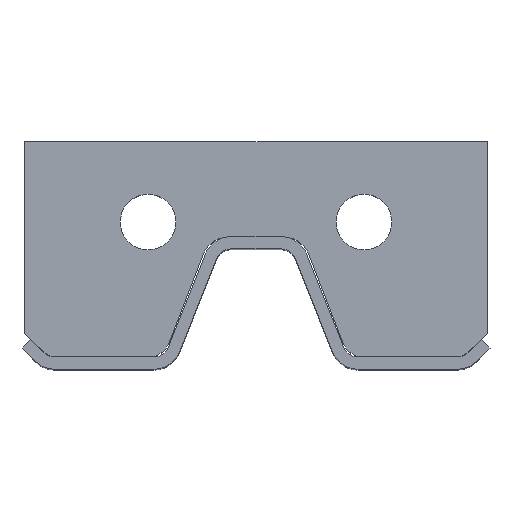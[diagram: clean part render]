
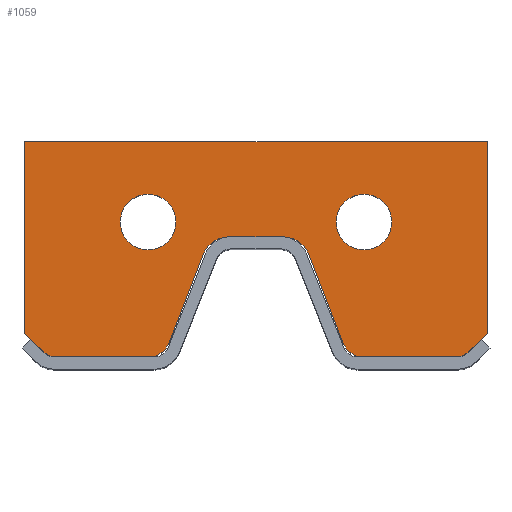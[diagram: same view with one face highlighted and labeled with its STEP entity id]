
A CAD part, top view. The second image highlights one B-rep face of the part: STEP entity #1059.
In plain terms, the highlighted planar face has unit normal (0, 0, 1).
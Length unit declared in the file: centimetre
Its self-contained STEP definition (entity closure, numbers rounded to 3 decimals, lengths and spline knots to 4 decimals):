
#28=FACE_BOUND('',#178,.T.);
#29=FACE_BOUND('',#179,.T.);
#59=PLANE('',#1164);
#113=FACE_OUTER_BOUND('',#177,.T.);
#177=EDGE_LOOP('',(#964,#965,#966,#967,#968,#969,#970,#971,#972,#973,#974,
#975,#976,#977,#978,#979));
#178=EDGE_LOOP('',(#980));
#179=EDGE_LOOP('',(#981));
#257=LINE('',#1717,#359);
#259=LINE('',#1721,#361);
#261=LINE('',#1725,#363);
#264=LINE('',#1733,#366);
#267=LINE('',#1741,#369);
#270=LINE('',#1749,#372);
#273=LINE('',#1757,#375);
#276=LINE('',#1765,#378);
#279=LINE('',#1773,#381);
#281=LINE('',#1776,#383);
#359=VECTOR('',#1404,0.1);
#361=VECTOR('',#1408,0.1);
#363=VECTOR('',#1412,0.1);
#366=VECTOR('',#1421,0.1);
#369=VECTOR('',#1430,0.1);
#372=VECTOR('',#1439,0.1);
#375=VECTOR('',#1448,0.1);
#378=VECTOR('',#1457,0.1);
#381=VECTOR('',#1466,0.1);
#383=VECTOR('',#1470,0.1);
#424=CIRCLE('',#1139,0.9);
#425=CIRCLE('',#1141,0.9);
#426=CIRCLE('',#1146,0.8);
#427=CIRCLE('',#1149,0.8);
#428=CIRCLE('',#1152,0.8);
#429=CIRCLE('',#1155,0.8);
#430=CIRCLE('',#1158,0.8);
#431=CIRCLE('',#1161,0.8);
#514=VERTEX_POINT('',#1706);
#515=VERTEX_POINT('',#1710);
#516=VERTEX_POINT('',#1714);
#517=VERTEX_POINT('',#1716);
#518=VERTEX_POINT('',#1720);
#519=VERTEX_POINT('',#1724);
#520=VERTEX_POINT('',#1728);
#521=VERTEX_POINT('',#1732);
#522=VERTEX_POINT('',#1736);
#523=VERTEX_POINT('',#1740);
#524=VERTEX_POINT('',#1744);
#525=VERTEX_POINT('',#1748);
#526=VERTEX_POINT('',#1752);
#527=VERTEX_POINT('',#1756);
#528=VERTEX_POINT('',#1760);
#529=VERTEX_POINT('',#1764);
#530=VERTEX_POINT('',#1768);
#531=VERTEX_POINT('',#1772);
#646=EDGE_CURVE('',#514,#514,#424,.T.);
#648=EDGE_CURVE('',#515,#515,#425,.T.);
#651=EDGE_CURVE('',#517,#516,#257,.T.);
#653=EDGE_CURVE('',#518,#517,#259,.T.);
#655=EDGE_CURVE('',#519,#518,#261,.T.);
#657=EDGE_CURVE('',#520,#519,#426,.T.);
#659=EDGE_CURVE('',#521,#520,#264,.T.);
#661=EDGE_CURVE('',#522,#521,#427,.T.);
#663=EDGE_CURVE('',#523,#522,#267,.T.);
#665=EDGE_CURVE('',#524,#523,#428,.T.);
#667=EDGE_CURVE('',#525,#524,#270,.T.);
#669=EDGE_CURVE('',#526,#525,#429,.T.);
#671=EDGE_CURVE('',#527,#526,#273,.T.);
#673=EDGE_CURVE('',#528,#527,#430,.T.);
#675=EDGE_CURVE('',#529,#528,#276,.T.);
#677=EDGE_CURVE('',#530,#529,#431,.T.);
#679=EDGE_CURVE('',#531,#530,#279,.T.);
#681=EDGE_CURVE('',#516,#531,#281,.T.);
#964=ORIENTED_EDGE('',*,*,#681,.T.);
#965=ORIENTED_EDGE('',*,*,#679,.T.);
#966=ORIENTED_EDGE('',*,*,#677,.T.);
#967=ORIENTED_EDGE('',*,*,#675,.T.);
#968=ORIENTED_EDGE('',*,*,#673,.T.);
#969=ORIENTED_EDGE('',*,*,#671,.T.);
#970=ORIENTED_EDGE('',*,*,#669,.T.);
#971=ORIENTED_EDGE('',*,*,#667,.T.);
#972=ORIENTED_EDGE('',*,*,#665,.T.);
#973=ORIENTED_EDGE('',*,*,#663,.T.);
#974=ORIENTED_EDGE('',*,*,#661,.T.);
#975=ORIENTED_EDGE('',*,*,#659,.T.);
#976=ORIENTED_EDGE('',*,*,#657,.T.);
#977=ORIENTED_EDGE('',*,*,#655,.T.);
#978=ORIENTED_EDGE('',*,*,#653,.T.);
#979=ORIENTED_EDGE('',*,*,#651,.T.);
#980=ORIENTED_EDGE('',*,*,#648,.T.);
#981=ORIENTED_EDGE('',*,*,#646,.T.);
#1059=ADVANCED_FACE('',(#113,#28,#29),#59,.T.);
#1139=AXIS2_PLACEMENT_3D('',#1707,#1393,#1394);
#1141=AXIS2_PLACEMENT_3D('',#1711,#1398,#1399);
#1146=AXIS2_PLACEMENT_3D('',#1729,#1416,#1417);
#1149=AXIS2_PLACEMENT_3D('',#1737,#1425,#1426);
#1152=AXIS2_PLACEMENT_3D('',#1745,#1434,#1435);
#1155=AXIS2_PLACEMENT_3D('',#1753,#1443,#1444);
#1158=AXIS2_PLACEMENT_3D('',#1761,#1452,#1453);
#1161=AXIS2_PLACEMENT_3D('',#1769,#1461,#1462);
#1164=AXIS2_PLACEMENT_3D('',#1777,#1471,#1472);
#1393=DIRECTION('center_axis',(0.,0.,-1.));
#1394=DIRECTION('ref_axis',(1.,0.,0.));
#1398=DIRECTION('center_axis',(0.,0.,-1.));
#1399=DIRECTION('ref_axis',(1.,0.,0.));
#1404=DIRECTION('',(-1.,0.,0.));
#1408=DIRECTION('',(0.,1.,0.));
#1412=DIRECTION('',(0.707,0.707,0.));
#1416=DIRECTION('center_axis',(0.,0.,1.));
#1417=DIRECTION('ref_axis',(0.,-1.,0.));
#1421=DIRECTION('',(1.,0.,0.));
#1425=DIRECTION('center_axis',(0.,0.,1.));
#1426=DIRECTION('ref_axis',(-0.933,-0.359,0.));
#1430=DIRECTION('',(0.359,-0.933,0.));
#1434=DIRECTION('center_axis',(0.,0.,-1.));
#1435=DIRECTION('ref_axis',(0.,1.,0.));
#1439=DIRECTION('',(1.,0.,0.));
#1443=DIRECTION('center_axis',(0.,0.,-1.));
#1444=DIRECTION('ref_axis',(-0.933,0.359,0.));
#1448=DIRECTION('',(0.359,0.933,0.));
#1452=DIRECTION('center_axis',(0.,0.,1.));
#1453=DIRECTION('ref_axis',(0.,-1.,0.));
#1457=DIRECTION('',(1.,0.,0.));
#1461=DIRECTION('center_axis',(0.,0.,1.));
#1462=DIRECTION('ref_axis',(-0.707,-0.707,0.));
#1466=DIRECTION('',(0.707,-0.707,0.));
#1470=DIRECTION('',(0.,-1.,0.));
#1471=DIRECTION('center_axis',(0.,0.,1.));
#1472=DIRECTION('ref_axis',(1.,0.,0.));
#1706=CARTESIAN_POINT('',(66.6042,160.4396,0.2));
#1707=CARTESIAN_POINT('Origin',(67.5042,160.4396,0.2));
#1710=CARTESIAN_POINT('',(59.6042,160.4396,0.2));
#1711=CARTESIAN_POINT('Origin',(60.5042,160.4396,0.2));
#1714=CARTESIAN_POINT('',(56.5042,163.0396,0.2));
#1716=CARTESIAN_POINT('',(71.5042,163.0396,0.2));
#1717=CARTESIAN_POINT('',(71.5042,163.0396,0.2));
#1720=CARTESIAN_POINT('',(71.5042,156.8396,0.2));
#1721=CARTESIAN_POINT('',(71.5042,156.8396,0.2));
#1724=CARTESIAN_POINT('',(70.9386,156.2739,0.2));
#1725=CARTESIAN_POINT('',(70.9386,156.2739,0.2));
#1728=CARTESIAN_POINT('',(70.3729,156.0396,0.2));
#1729=CARTESIAN_POINT('Origin',(70.3729,156.8396,0.2));
#1732=CARTESIAN_POINT('',(67.5537,156.0396,0.2));
#1733=CARTESIAN_POINT('',(67.5537,156.0396,0.2));
#1736=CARTESIAN_POINT('',(66.807,156.5524,0.2));
#1737=CARTESIAN_POINT('Origin',(67.5537,156.8396,0.2));
#1740=CARTESIAN_POINT('',(65.7015,159.4268,0.2));
#1741=CARTESIAN_POINT('',(65.7015,159.4268,0.2));
#1744=CARTESIAN_POINT('',(64.9548,159.9396,0.2));
#1745=CARTESIAN_POINT('Origin',(64.9548,159.1396,0.2));
#1748=CARTESIAN_POINT('',(63.0537,159.9396,0.2));
#1749=CARTESIAN_POINT('',(63.0537,159.9396,0.2));
#1752=CARTESIAN_POINT('',(62.307,159.4268,0.2));
#1753=CARTESIAN_POINT('Origin',(63.0537,159.1396,0.2));
#1756=CARTESIAN_POINT('',(61.2015,156.5524,0.2));
#1757=CARTESIAN_POINT('',(61.2015,156.5524,0.2));
#1760=CARTESIAN_POINT('',(60.4548,156.0396,0.2));
#1761=CARTESIAN_POINT('Origin',(60.4548,156.8396,0.2));
#1764=CARTESIAN_POINT('',(57.6356,156.0396,0.2));
#1765=CARTESIAN_POINT('',(57.6356,156.0396,0.2));
#1768=CARTESIAN_POINT('',(57.0699,156.2739,0.2));
#1769=CARTESIAN_POINT('Origin',(57.6356,156.8396,0.2));
#1772=CARTESIAN_POINT('',(56.5042,156.8396,0.2));
#1773=CARTESIAN_POINT('',(56.5042,156.8396,0.2));
#1776=CARTESIAN_POINT('',(56.5042,163.0396,0.2));
#1777=CARTESIAN_POINT('Origin',(64.0042,159.8304,0.2));
